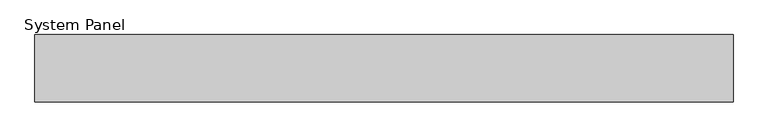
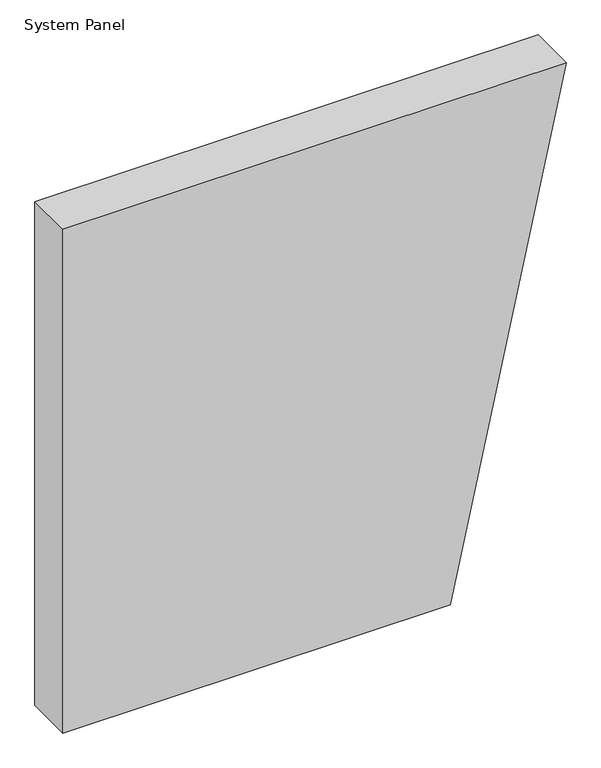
"""IFC4 building model written with IfcOpenShell, lengths in millimetres: plate geometry, System Panel : Inspire 100mm Horizontal - Plain RHEA-PIR."""

from ifc_helpers import new_model, si_unit, frame, origin, place, context, project, spatial, polyline, outline, extrude, source, transform, mapped, element, save


def system_panel_ded49ce0(model_context):
    return source(origin(), model_context, "Body", "SweptSolid", [
        extrude(outline(polyline([(0.0, -519.5661783), (0.0, 280.4338217), (1100.0, 519.5661783), (1100.0, -519.5661783), (0.0, -519.5661783)])), frame((0.0, -100.0, 0.0), z_axis=(0.0, 1.0, 0.0), x_axis=(0.0, 0.0, 1.0)), (0.0, 0.0, 1.0), 100.0),
    ])


if __name__ == "__main__":
    model = new_model("IFC4")
    model_context = context("Model", 3, world=origin())
    ifc_project = project(units=[si_unit("LENGTHUNIT", "METRE", prefix="MILLI")], contexts=[model_context])
    site = spatial("IfcSite", under=ifc_project)
    building = spatial("IfcBuilding", under=site)
    placement = place(None, origin())
    system_panel_shape = system_panel_ded49ce0(model_context)
    element("IfcPlate", 1, ObjectType="System Panel : Inspire 100mm Horizontal - Plain RHEA-PIR", at=placement, inside=building, context=model_context, shape_type="MappedRepresentation", body=[
        mapped(system_panel_shape, transform((0.0, 0.0, 0.0), x_axis=(1.0, 0.0, 0.0), y_axis=(0.0, 1.0, 0.0), z_axis=(0.0, 0.0, 1.0))),
    ])
    save(model, "model.ifc")
